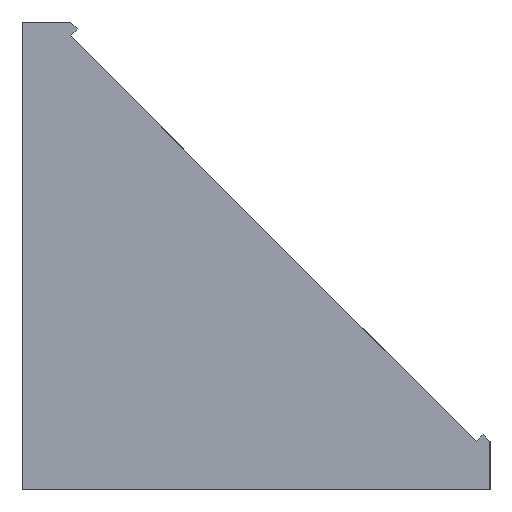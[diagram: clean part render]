
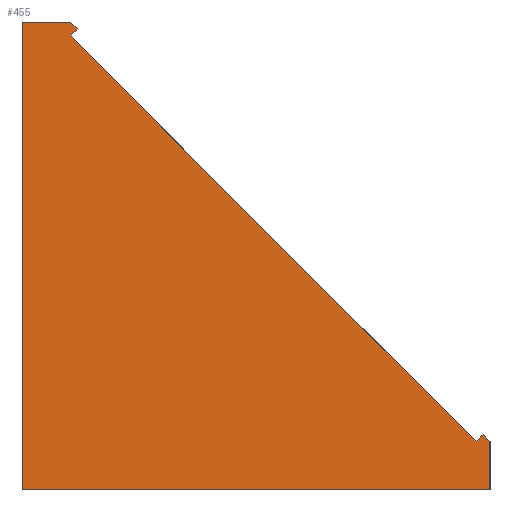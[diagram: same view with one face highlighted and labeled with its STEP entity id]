
A CAD part, left-side view. The second image highlights one B-rep face of the part: STEP entity #455.
In plain terms, the highlighted planar face has unit normal (-1, 0, 0).
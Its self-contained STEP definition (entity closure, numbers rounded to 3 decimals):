
#14 = ORIENTED_EDGE ( 'NONE', *, *, #1467, .F. ) ;
#29 = CARTESIAN_POINT ( 'NONE',  ( -78.5, 240.932, 25.147 ) ) ;
#50 = CARTESIAN_POINT ( 'NONE',  ( -78.5, 240.932, -59.353 ) ) ;
#88 = DIRECTION ( 'NONE',  ( 0., 1., 0. ) ) ;
#157 = VERTEX_POINT ( 'NONE', #815 ) ;
#197 = VERTEX_POINT ( 'NONE', #443 ) ;
#210 = DIRECTION ( 'NONE',  ( 0., 0., -1. ) ) ;
#234 = ORIENTED_EDGE ( 'NONE', *, *, #246, .F. ) ;
#241 = AXIS2_PLACEMENT_3D ( 'NONE', #718, #984, #210 ) ;
#246 = EDGE_CURVE ( 'NONE', #512, #197, #1103, .T. ) ;
#251 = DIRECTION ( 'NONE',  ( 0., -0.707, -0.707 ) ) ;
#258 = CARTESIAN_POINT ( 'NONE',  ( -78.5, 157.682, -49.353 ) ) ;
#305 = DIRECTION ( 'NONE',  ( 0., -0.707, -0.707 ) ) ;
#381 = CARTESIAN_POINT ( 'NONE',  ( -78.5, 209.381, 25.147 ) ) ;
#427 = EDGE_CURVE ( 'NONE', #817, #1261, #633, .T. ) ;
#440 = ORIENTED_EDGE ( 'NONE', *, *, #1418, .F. ) ;
#441 = CARTESIAN_POINT ( 'NONE',  ( -78.5, 232.182, 22.647 ) ) ;
#443 = CARTESIAN_POINT ( 'NONE',  ( -78.5, 156.432, -50.603 ) ) ;
#455 = ADVANCED_FACE ( 'sweep_start_face', ( #1629 ), #1366, .F. ) ;
#473 = VECTOR ( 'NONE', #630, 1000. ) ;
#510 = CARTESIAN_POINT ( 'NONE',  ( -78.5, 157.682, -49.353 ) ) ;
#512 = VERTEX_POINT ( 'NONE', #258 ) ;
#540 = DIRECTION ( 'NONE',  ( 0., -0.707, -0.707 ) ) ;
#541 = CARTESIAN_POINT ( 'NONE',  ( -78.5, 156.432, -59.353 ) ) ;
#547 = DIRECTION ( 'NONE',  ( 0., 0., -1. ) ) ;
#584 = CARTESIAN_POINT ( 'NONE',  ( -78.5, 230.932, 23.897 ) ) ;
#588 = DIRECTION ( 'NONE',  ( 0., 0.707, -0.707 ) ) ;
#592 = LINE ( 'NONE', #584, #765 ) ;
#599 = ORIENTED_EDGE ( 'NONE', *, *, #1191, .F. ) ;
#622 = VERTEX_POINT ( 'NONE', #29 ) ;
#630 = DIRECTION ( 'NONE',  ( 0., -1., 0. ) ) ;
#633 = LINE ( 'NONE', #850, #1236 ) ;
#647 = VERTEX_POINT ( 'NONE', #780 ) ;
#654 = VECTOR ( 'NONE', #305, 1000. ) ;
#658 = CARTESIAN_POINT ( 'NONE',  ( -78.5, 158.932, -50.603 ) ) ;
#684 = ORIENTED_EDGE ( 'NONE', *, *, #1312, .F. ) ;
#718 = CARTESIAN_POINT ( 'NONE',  ( -78.5, 209.381, -27.802 ) ) ;
#733 = EDGE_LOOP ( 'NONE', ( #1472, #1036, #440, #234, #901, #996, #599, #684, #14 ) ) ;
#747 = VECTOR ( 'NONE', #251, 1000. ) ;
#762 = VERTEX_POINT ( 'NONE', #658 ) ;
#765 = VECTOR ( 'NONE', #588, 1000. ) ;
#780 = CARTESIAN_POINT ( 'NONE',  ( -78.5, 230.932, 23.897 ) ) ;
#802 = LINE ( 'NONE', #1194, #1623 ) ;
#815 = CARTESIAN_POINT ( 'NONE',  ( -78.5, 232.182, 25.147 ) ) ;
#817 = VERTEX_POINT ( 'NONE', #541 ) ;
#850 = CARTESIAN_POINT ( 'NONE',  ( -78.5, 240.932, -59.353 ) ) ;
#881 = EDGE_CURVE ( 'NONE', #1261, #622, #1002, .T. ) ;
#901 = ORIENTED_EDGE ( 'NONE', *, *, #1616, .F. ) ;
#918 = CARTESIAN_POINT ( 'NONE',  ( -78.5, 158.932, -50.603 ) ) ;
#984 = DIRECTION ( 'NONE',  ( 1., 0., 0. ) ) ;
#996 = ORIENTED_EDGE ( 'NONE', *, *, #1096, .F. ) ;
#1002 = LINE ( 'NONE', #1066, #1399 ) ;
#1036 = ORIENTED_EDGE ( 'NONE', *, *, #427, .F. ) ;
#1066 = CARTESIAN_POINT ( 'NONE',  ( -78.5, 240.932, -27.802 ) ) ;
#1093 = DIRECTION ( 'NONE',  ( 0., 0., 1. ) ) ;
#1096 = EDGE_CURVE ( 'NONE', #1388, #762, #1131, .T. ) ;
#1103 = LINE ( 'NONE', #510, #747 ) ;
#1131 = LINE ( 'NONE', #441, #654 ) ;
#1144 = LINE ( 'NONE', #381, #473 ) ;
#1146 = VECTOR ( 'NONE', #1161, 1000. ) ;
#1161 = DIRECTION ( 'NONE',  ( 0., -0.707, 0.707 ) ) ;
#1181 = VECTOR ( 'NONE', #540, 1000. ) ;
#1191 = EDGE_CURVE ( 'NONE', #647, #1388, #592, .T. ) ;
#1194 = CARTESIAN_POINT ( 'NONE',  ( -78.5, 156.432, -27.802 ) ) ;
#1236 = VECTOR ( 'NONE', #88, 1000. ) ;
#1246 = LINE ( 'NONE', #918, #1146 ) ;
#1261 = VERTEX_POINT ( 'NONE', #50 ) ;
#1312 = EDGE_CURVE ( 'NONE', #157, #647, #1425, .T. ) ;
#1330 = CARTESIAN_POINT ( 'NONE',  ( -78.5, 232.182, 22.647 ) ) ;
#1366 = PLANE ( 'NONE',  #241 ) ;
#1388 = VERTEX_POINT ( 'NONE', #1330 ) ;
#1399 = VECTOR ( 'NONE', #1093, 1000. ) ;
#1418 = EDGE_CURVE ( 'NONE', #197, #817, #802, .T. ) ;
#1425 = LINE ( 'NONE', #1469, #1181 ) ;
#1467 = EDGE_CURVE ( 'NONE', #622, #157, #1144, .T. ) ;
#1469 = CARTESIAN_POINT ( 'NONE',  ( -78.5, 232.182, 25.147 ) ) ;
#1472 = ORIENTED_EDGE ( 'NONE', *, *, #881, .F. ) ;
#1616 = EDGE_CURVE ( 'NONE', #762, #512, #1246, .T. ) ;
#1623 = VECTOR ( 'NONE', #547, 1000. ) ;
#1629 = FACE_OUTER_BOUND ( 'NONE', #733, .T. ) ;
